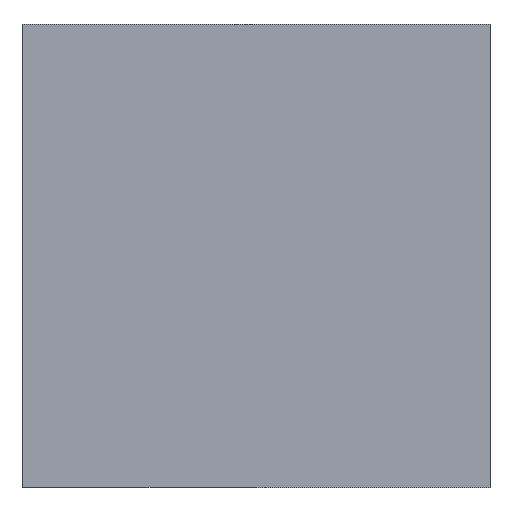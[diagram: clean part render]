
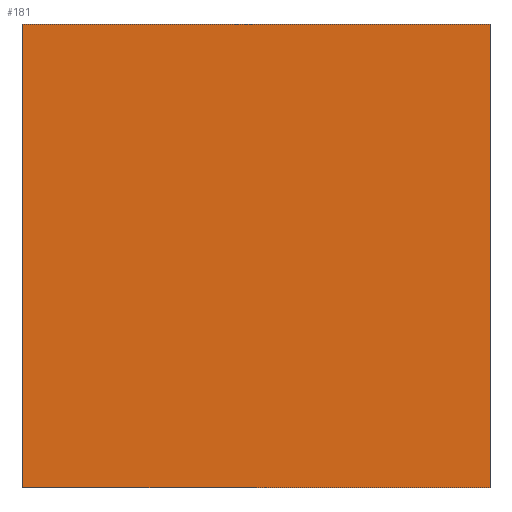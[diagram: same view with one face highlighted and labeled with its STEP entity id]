
A CAD part, front view. The second image highlights one B-rep face of the part: STEP entity #181.
In plain terms, the highlighted planar face has unit normal (0, -1, 0).
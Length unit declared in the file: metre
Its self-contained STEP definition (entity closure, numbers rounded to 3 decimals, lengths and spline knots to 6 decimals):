
#32=ORIENTED_EDGE('',*,*,#74,.T.);
#33=ORIENTED_EDGE('',*,*,#78,.F.);
#34=ORIENTED_EDGE('',*,*,#60,.F.);
#35=ORIENTED_EDGE('',*,*,#79,.T.);
#60=EDGE_CURVE('',#84,#85,#100,.T.);
#74=EDGE_CURVE('',#97,#96,#114,.T.);
#78=EDGE_CURVE('',#85,#96,#118,.T.);
#79=EDGE_CURVE('',#84,#97,#119,.T.);
#84=VERTEX_POINT('',#260);
#85=VERTEX_POINT('',#261);
#96=VERTEX_POINT('',#287);
#97=VERTEX_POINT('',#289);
#100=LINE('',#259,#124);
#114=LINE('',#288,#138);
#118=LINE('',#296,#142);
#119=LINE('',#297,#143);
#124=VECTOR('',#215,1.);
#138=VECTOR('',#233,1.);
#142=VECTOR('',#239,1.);
#143=VECTOR('',#240,1.);
#151=EDGE_LOOP('',(#32,#33,#34,#35));
#161=FACE_BOUND('',#151,.T.);
#171=PLANE('',#204);
#181=ADVANCED_FACE('',(#161),#171,.T.);
#204=AXIS2_PLACEMENT_3D('',#295,#237,#238);
#215=DIRECTION('',(0.,0.,-1.));
#233=DIRECTION('',(0.,0.,-1.));
#237=DIRECTION('',(0.,-1.,0.));
#238=DIRECTION('',(0.,0.,-1.));
#239=DIRECTION('',(-1.,0.,0.));
#240=DIRECTION('',(-1.,0.,0.));
#259=CARTESIAN_POINT('',(0.,0.,0.030545));
#260=CARTESIAN_POINT('',(0.,0.,0.03369));
#261=CARTESIAN_POINT('',(0.,0.,0.));
#287=CARTESIAN_POINT('',(-0.034,0.,0.));
#288=CARTESIAN_POINT('',(-0.034,0.,0.030545));
#289=CARTESIAN_POINT('',(-0.034,0.,0.03369));
#295=CARTESIAN_POINT('',(-0.017,0.,0.030545));
#296=CARTESIAN_POINT('',(-0.017,0.,0.));
#297=CARTESIAN_POINT('',(-0.017,0.,0.03369));
